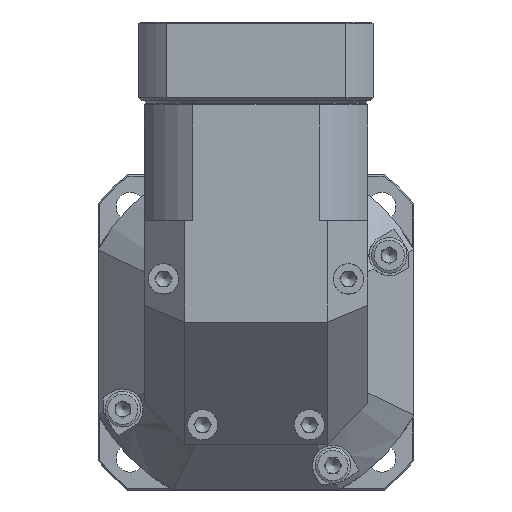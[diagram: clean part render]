
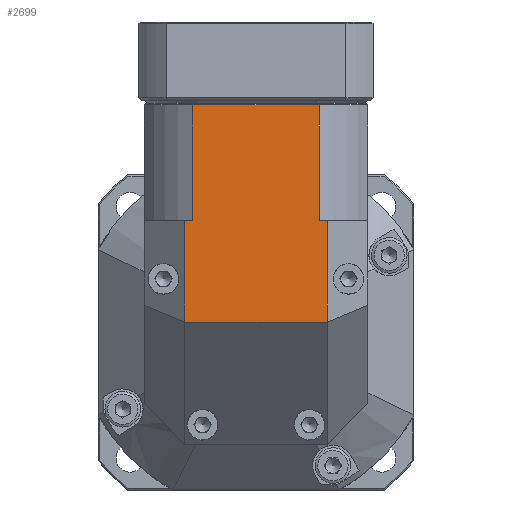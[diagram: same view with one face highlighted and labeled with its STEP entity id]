
A CAD part, front view. The second image highlights one B-rep face of the part: STEP entity #2699.
In plain terms, the highlighted planar face has unit normal (0, -1, 0).
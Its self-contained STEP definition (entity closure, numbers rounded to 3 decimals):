
#2628=CARTESIAN_POINT('',(-22.0,-22.,45.));
#2629=DIRECTION('',(0.0,-1.0,0.0));
#2630=DIRECTION('',(0.0,0.0,-1.0));
#2631=AXIS2_PLACEMENT_3D('',#2628,#2629,#2630);
#2632=PLANE('',#2631);
#2633=CARTESIAN_POINT('',(12.392,-22.0,22.));
#2634=VERTEX_POINT('',#2633);
#2635=CARTESIAN_POINT('',(12.392,-22.0,44.7));
#2636=VERTEX_POINT('',#2635);
#2637=CARTESIAN_POINT('',(12.392,-22.0,22.));
#2638=DIRECTION('',(0.0,0.0,1.0));
#2639=VECTOR('',#2638,22.7);
#2640=LINE('',#2637,#2639);
#2641=EDGE_CURVE('',#2634,#2636,#2640,.T.);
#2642=ORIENTED_EDGE('',*,*,#2641,.T.);
#2643=CARTESIAN_POINT('',(-12.392,-22.0,44.7));
#2644=VERTEX_POINT('',#2643);
#2645=CARTESIAN_POINT('',(12.392,-22.,44.7));
#2646=DIRECTION('',(-1.0,0.0,0.0));
#2647=VECTOR('',#2646,24.784);
#2648=LINE('',#2645,#2647);
#2649=EDGE_CURVE('',#2636,#2644,#2648,.T.);
#2650=ORIENTED_EDGE('',*,*,#2649,.T.);
#2651=CARTESIAN_POINT('',(-12.392,-22.0,22.));
#2652=VERTEX_POINT('',#2651);
#2653=CARTESIAN_POINT('',(-12.392,-22.0,22.));
#2654=DIRECTION('',(0.0,0.0,1.0));
#2655=VECTOR('',#2654,22.7);
#2656=LINE('',#2653,#2655);
#2657=EDGE_CURVE('',#2652,#2644,#2656,.T.);
#2658=ORIENTED_EDGE('',*,*,#2657,.F.);
#2659=CARTESIAN_POINT('',(-14.,-22.,22.));
#2660=VERTEX_POINT('',#2659);
#2661=CARTESIAN_POINT('',(-12.392,-22.0,22.));
#2662=DIRECTION('',(-1.0,0.0,0.0));
#2663=VECTOR('',#2662,1.608);
#2664=LINE('',#2661,#2663);
#2665=EDGE_CURVE('',#2652,#2660,#2664,.T.);
#2666=ORIENTED_EDGE('',*,*,#2665,.T.);
#2667=CARTESIAN_POINT('',(-14.,-22.0,2.));
#2668=VERTEX_POINT('',#2667);
#2669=CARTESIAN_POINT('',(-14.,-22.0,22.));
#2670=DIRECTION('',(0.0,0.0,-1.0));
#2671=VECTOR('',#2670,20.);
#2672=LINE('',#2669,#2671);
#2673=EDGE_CURVE('',#2660,#2668,#2672,.T.);
#2674=ORIENTED_EDGE('',*,*,#2673,.T.);
#2675=CARTESIAN_POINT('',(14.,-22.0,2.));
#2676=VERTEX_POINT('',#2675);
#2677=CARTESIAN_POINT('',(-14.,-22.0,2.));
#2678=DIRECTION('',(1.0,0.0,0.0));
#2679=VECTOR('',#2678,28.);
#2680=LINE('',#2677,#2679);
#2681=EDGE_CURVE('',#2668,#2676,#2680,.T.);
#2682=ORIENTED_EDGE('',*,*,#2681,.T.);
#2683=CARTESIAN_POINT('',(14.,-22.,22.));
#2684=VERTEX_POINT('',#2683);
#2685=CARTESIAN_POINT('',(14.,-22.,2.));
#2686=DIRECTION('',(0.0,0.0,1.0));
#2687=VECTOR('',#2686,20.);
#2688=LINE('',#2685,#2687);
#2689=EDGE_CURVE('',#2676,#2684,#2688,.T.);
#2690=ORIENTED_EDGE('',*,*,#2689,.T.);
#2691=CARTESIAN_POINT('',(14.,-22.0,22.));
#2692=DIRECTION('',(-1.0,0.0,0.0));
#2693=VECTOR('',#2692,1.608);
#2694=LINE('',#2691,#2693);
#2695=EDGE_CURVE('',#2684,#2634,#2694,.T.);
#2696=ORIENTED_EDGE('',*,*,#2695,.T.);
#2697=EDGE_LOOP('',(#2642,#2650,#2658,#2666,#2674,#2682,#2690,#2696));
#2698=FACE_OUTER_BOUND('',#2697,.T.);
#2699=ADVANCED_FACE('',(#2698),#2632,.T.);
